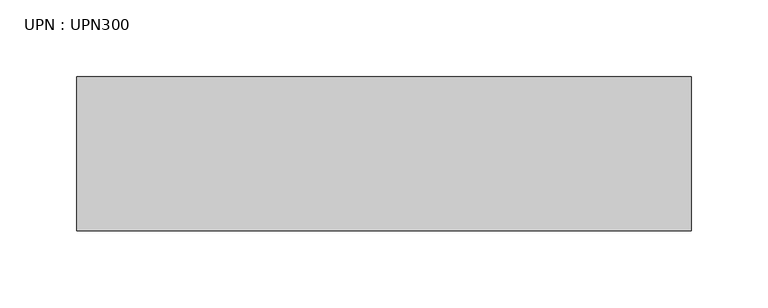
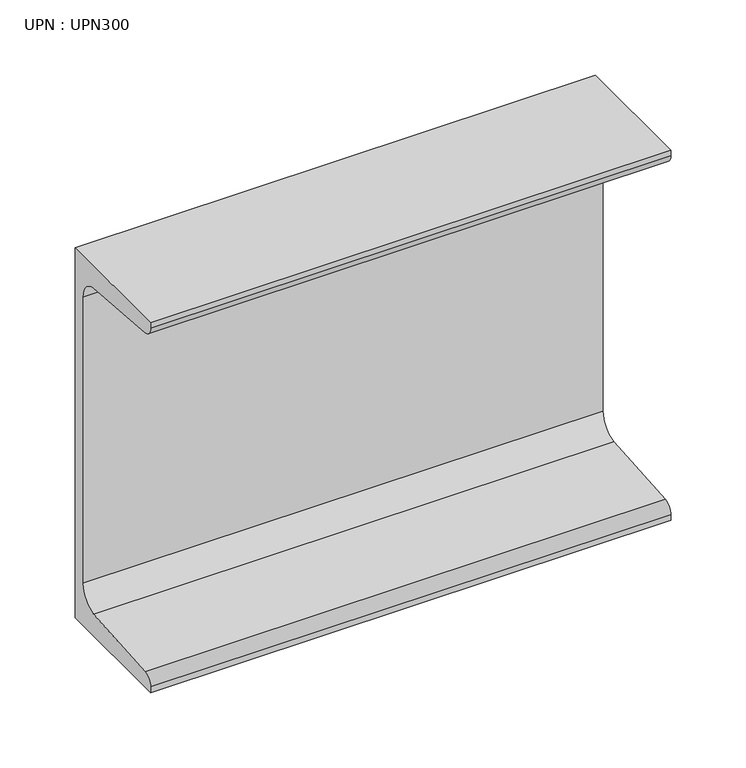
"""IFC4 building model written with IfcOpenShell, lengths in millimetres: beam geometry, UPN : UPN300."""

from ifc_helpers import new_model, si_unit, point, frame, frame_2d, origin, place, context, project, spatial, polyline, circle_curve, trimmed, segment, composite_curve, outline, extrude, source, transform, mapped, element, save


def upn_upn300_71eba413(model_context):
    return source(origin(), model_context, "Body", "SweptSolid", [
        extrude(outline(composite_curve([segment(polyline([(27.0, 150.0), (27.0, -150.0), (-73.0, -150.0), (-73.0, -145.3826224)]), True, "CONTINUOUS"), segment(trimmed(circle_curve(frame_2d((-65.0, -145.3826224)), 8.0), [point((-73.0, -145.3826224))], [point((-65.637416, -137.4080566))], False, "CARTESIAN"), True, "CONTINUOUS"), segment(polyline([(-65.637416, -137.4080566), (2.274832, -131.9797543)]), True, "CONTINUOUS"), segment(trimmed(circle_curve(frame_2d((1.0, -116.0306225)), 16.0), [point((2.274832, -131.9797543))], [point((17.0, -116.0306225))], True, "CARTESIAN"), True, "CONTINUOUS"), segment(polyline([(17.0, -116.0306225), (17.0, 116.0306225)]), True, "CONTINUOUS"), segment(trimmed(circle_curve(frame_2d((1.0, 116.0306225)), 16.0), [point((17.0, 116.0306225))], [point((2.274832, 131.9797543))], True, "CARTESIAN"), True, "CONTINUOUS"), segment(polyline([(2.274832, 131.9797543), (-65.637416, 137.4080566)]), True, "CONTINUOUS"), segment(trimmed(circle_curve(frame_2d((-65.0, 145.3826224)), 8.0), [point((-65.637416, 137.4080566))], [point((-73.0, 145.3826224))], False, "CARTESIAN"), True, "CONTINUOUS"), segment(polyline([(-73.0, 145.3826224), (-73.0, 150.0), (27.0, 150.0)]), True, "CONTINUOUS")], self_intersect=False)), frame((-181.8, 0.0, 0.0), z_axis=(1.0, 0.0, 0.0), x_axis=(0.0, 1.0, 0.0)), (0.0, 0.0, 1.0), 399.0),
    ])


if __name__ == "__main__":
    model = new_model("IFC4")
    model_context = context("Model", 3, world=origin())
    ifc_project = project(units=[si_unit("LENGTHUNIT", "METRE", prefix="MILLI")], contexts=[model_context])
    site = spatial("IfcSite", under=ifc_project)
    building = spatial("IfcBuilding", under=site)
    placement = place(None, origin())
    upn_upn300_shape = upn_upn300_71eba413(model_context)
    element("IfcBeam", 1, ObjectType="UPN : UPN300", at=placement, inside=building, context=model_context, shape_type="MappedRepresentation", body=[
        mapped(upn_upn300_shape, transform((0.0, 0.0, 0.0), x_axis=(1.0, 0.0, 0.0), y_axis=(0.0, 1.0, 0.0), z_axis=(0.0, 0.0, 1.0))),
    ])
    save(model, "model.ifc")
